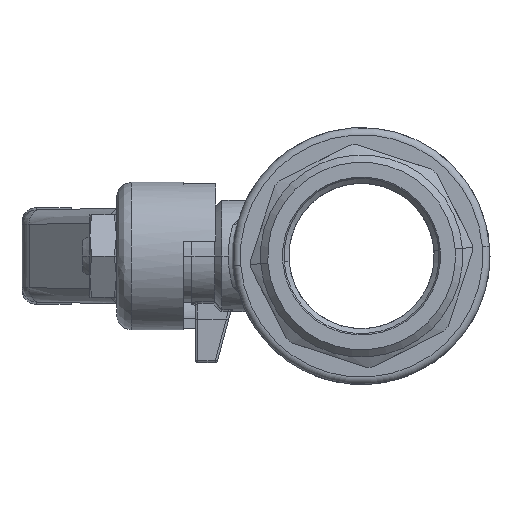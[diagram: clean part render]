
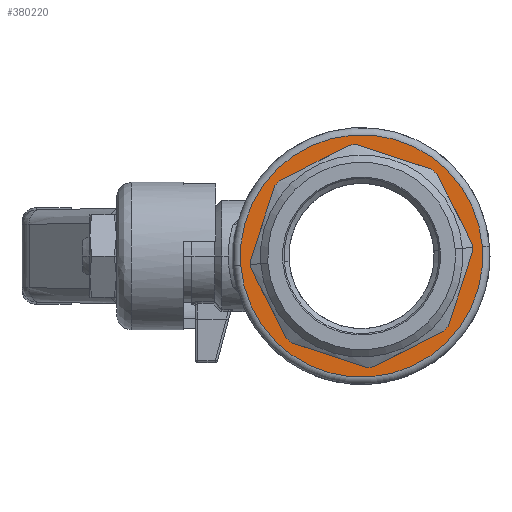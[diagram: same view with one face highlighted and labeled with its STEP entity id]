
A CAD part, left-side view. The second image highlights one B-rep face of the part: STEP entity #380220.
In plain terms, the highlighted planar face has unit normal (-1, 0, 0) as drawn and (1, 0, 0) by its records, which use the part's own axes.
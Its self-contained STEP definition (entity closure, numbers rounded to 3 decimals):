
#378770=CARTESIAN_POINT('',(24.,24.927,
1.911));
#378780=VERTEX_POINT('',#378770);
#378870=CARTESIAN_POINT('',(24.,-24.927,
-1.911));
#378880=VERTEX_POINT('',#378870);
#378910=CARTESIAN_POINT('',(24.,0.,
0.));
#378920=DIRECTION('',(-1.,0.,0.));
#378930=DIRECTION('',(0.,-0.997,-0.076));
#378940=AXIS2_PLACEMENT_3D('',#378910,#378920,#378930);
#378950=CIRCLE('',#378940,25.);
#378960=EDGE_CURVE('',#378780,#378880,#378950,.T.);
#379010=CARTESIAN_POINT('',(24.,-24.678,
-1.892));
#379020=DIRECTION('',(1.,0.,-0.));
#379030=DIRECTION('',(0.,0.997,0.076));
#379040=AXIS2_PLACEMENT_3D('',#379010,#379020,#379030);
#379050=PLANE('',#379040);
#379060=CARTESIAN_POINT('',(24.,0.,
0.));
#379070=DIRECTION('',(1.,0.,0.));
#379080=DIRECTION('',(0.,-0.997,-0.076));
#379090=AXIS2_PLACEMENT_3D('',#379060,#379070,#379080);
#379100=CIRCLE('',#379090,23.);
#379110=CARTESIAN_POINT('',(24.,15.482,
17.009));
#379120=VERTEX_POINT('',#379110);
#379130=CARTESIAN_POINT('',(24.,14.45,
17.894));
#379140=VERTEX_POINT('',#379130);
#379150=EDGE_CURVE('',#379120,#379140,#379100,.T.);
#379160=ORIENTED_EDGE('',*,*,#379150,.F.);
#379170=CARTESIAN_POINT('',(24.,-1.779,
23.203));
#379180=DIRECTION('',(0.,-0.95,0.311));
#379190=VECTOR('',#379180,1.);
#379200=LINE('',#379170,#379190);
#379210=CARTESIAN_POINT('',(24.,-1.08,
22.975));
#379220=VERTEX_POINT('',#379210);
#379230=EDGE_CURVE('',#379140,#379220,#379200,.T.);
#379240=ORIENTED_EDGE('',*,*,#379230,.F.);
#379250=CARTESIAN_POINT('',(24.,-2.435,
22.871));
#379260=VERTEX_POINT('',#379250);
#379270=EDGE_CURVE('',#379220,#379260,#379100,.T.);
#379280=ORIENTED_EDGE('',*,*,#379270,.F.);
#379290=CARTESIAN_POINT('',(24.,-1.779,
23.203));
#379300=DIRECTION('',(0.,-0.892,-0.452));
#379310=VECTOR('',#379300,1.);
#379320=LINE('',#379290,#379310);
#379330=CARTESIAN_POINT('',(24.,-17.009,
15.482));
#379340=VERTEX_POINT('',#379330);
#379350=EDGE_CURVE('',#379260,#379340,#379320,.T.);
#379360=ORIENTED_EDGE('',*,*,#379350,.F.);
#379370=CARTESIAN_POINT('',(24.,-17.894,
14.45));
#379380=VERTEX_POINT('',#379370);
#379390=EDGE_CURVE('',#379340,#379380,#379100,.T.);
#379400=ORIENTED_EDGE('',*,*,#379390,.F.);
#379410=CARTESIAN_POINT('',(24.,-23.203,
-1.779));
#379420=DIRECTION('',(0.,-0.311,-0.95));
#379430=VECTOR('',#379420,1.);
#379440=LINE('',#379410,#379430);
#379450=CARTESIAN_POINT('',(24.,-22.975,
-1.08));
#379460=VERTEX_POINT('',#379450);
#379470=EDGE_CURVE('',#379380,#379460,#379440,.T.);
#379480=ORIENTED_EDGE('',*,*,#379470,.F.);
#379490=CARTESIAN_POINT('',(24.,-22.933,
-1.758));
#379500=VERTEX_POINT('',#379490);
#379510=EDGE_CURVE('',#379460,#379500,#379100,.T.);
#379520=ORIENTED_EDGE('',*,*,#379510,.F.);
#379530=CARTESIAN_POINT('',(24.,-22.871,
-2.435));
#379540=VERTEX_POINT('',#379530);
#379550=EDGE_CURVE('',#379500,#379540,#379100,.T.);
#379560=ORIENTED_EDGE('',*,*,#379550,.F.);
#379570=CARTESIAN_POINT('',(24.,-23.203,
-1.779));
#379580=DIRECTION('',(0.,0.452,-0.892));
#379590=VECTOR('',#379580,1.);
#379600=LINE('',#379570,#379590);
#379610=CARTESIAN_POINT('',(24.,-15.482,
-17.009));
#379620=VERTEX_POINT('',#379610);
#379630=EDGE_CURVE('',#379540,#379620,#379600,.T.);
#379640=ORIENTED_EDGE('',*,*,#379630,.F.);
#379650=CARTESIAN_POINT('',(24.,-14.45,
-17.894));
#379660=VERTEX_POINT('',#379650);
#379670=EDGE_CURVE('',#379620,#379660,#379100,.T.);
#379680=ORIENTED_EDGE('',*,*,#379670,.F.);
#379690=CARTESIAN_POINT('',(24.,1.779,
-23.203));
#379700=DIRECTION('',(0.,0.95,-0.311));
#379710=VECTOR('',#379700,1.);
#379720=LINE('',#379690,#379710);
#379730=CARTESIAN_POINT('',(24.,1.08,
-22.975));
#379740=VERTEX_POINT('',#379730);
#379750=EDGE_CURVE('',#379660,#379740,#379720,.T.);
#379760=ORIENTED_EDGE('',*,*,#379750,.F.);
#379770=CARTESIAN_POINT('',(24.,2.435,
-22.871));
#379780=VERTEX_POINT('',#379770);
#379790=EDGE_CURVE('',#379740,#379780,#379100,.T.);
#379800=ORIENTED_EDGE('',*,*,#379790,.F.);
#379810=CARTESIAN_POINT('',(24.,1.779,
-23.203));
#379820=DIRECTION('',(0.,0.892,0.452));
#379830=VECTOR('',#379820,1.);
#379840=LINE('',#379810,#379830);
#379850=CARTESIAN_POINT('',(24.,17.009,
-15.482));
#379860=VERTEX_POINT('',#379850);
#379870=EDGE_CURVE('',#379780,#379860,#379840,.T.);
#379880=ORIENTED_EDGE('',*,*,#379870,.F.);
#379890=CARTESIAN_POINT('',(24.,17.894,
-14.45));
#379900=VERTEX_POINT('',#379890);
#379910=EDGE_CURVE('',#379860,#379900,#379100,.T.);
#379920=ORIENTED_EDGE('',*,*,#379910,.F.);
#379930=CARTESIAN_POINT('',(24.,23.203,
1.779));
#379940=DIRECTION('',(0.,0.311,0.95));
#379950=VECTOR('',#379940,1.);
#379960=LINE('',#379930,#379950);
#379970=CARTESIAN_POINT('',(24.,22.975,
1.08));
#379980=VERTEX_POINT('',#379970);
#379990=EDGE_CURVE('',#379900,#379980,#379960,.T.);
#380000=ORIENTED_EDGE('',*,*,#379990,.F.);
#380010=CARTESIAN_POINT('',(24.,22.933,
1.758));
#380020=VERTEX_POINT('',#380010);
#380030=EDGE_CURVE('',#379980,#380020,#379100,.T.);
#380040=ORIENTED_EDGE('',*,*,#380030,.F.);
#380050=CARTESIAN_POINT('',(24.,22.871,
2.435));
#380060=VERTEX_POINT('',#380050);
#380070=EDGE_CURVE('',#380020,#380060,#379100,.T.);
#380080=ORIENTED_EDGE('',*,*,#380070,.F.);
#380090=CARTESIAN_POINT('',(24.,23.203,
1.779));
#380100=DIRECTION('',(0.,-0.452,0.892));
#380110=VECTOR('',#380100,1.);
#380120=LINE('',#380090,#380110);
#380130=EDGE_CURVE('',#380060,#379120,#380120,.T.);
#380140=ORIENTED_EDGE('',*,*,#380130,.F.);
#380150=EDGE_LOOP('',(#380140,#380080,#380040,#380000,#379920,#379880,
#379800,#379760,#379680,#379640,#379560,#379520,#379480,#379400,#379360,
#379280,#379240,#379160));
#380160=FACE_BOUND('',#380150,.T.);
#380170=EDGE_CURVE('',#378880,#378780,#378950,.T.);
#380180=ORIENTED_EDGE('',*,*,#380170,.F.);
#380190=ORIENTED_EDGE('',*,*,#378960,.F.);
#380200=EDGE_LOOP('',(#380190,#380180));
#380210=FACE_OUTER_BOUND('',#380200,.T.);
#380220=ADVANCED_FACE('',(#380160,#380210),#379050,.T.);
